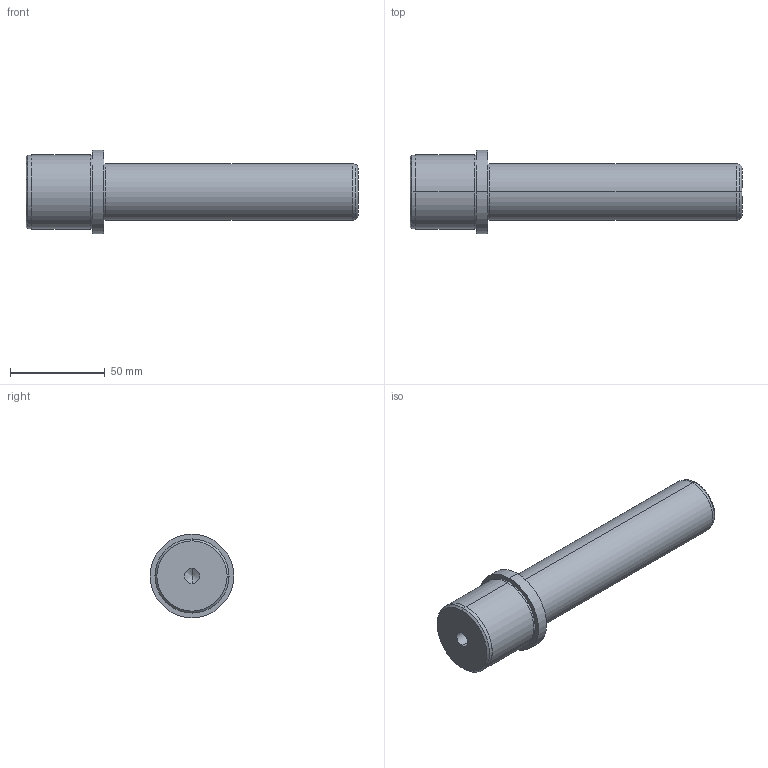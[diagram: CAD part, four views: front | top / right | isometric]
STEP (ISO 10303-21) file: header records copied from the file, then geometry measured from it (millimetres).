
FILE_DESCRIPTION( ( 'STEP AP203' ), '1' );
FILE_NAME( 'D:/Delta 3 D/D05/D05 - 30x140x35.step', '2002-12-31T22:40:39', ( ' ' ), ( ' ' ), 'XStep 1.0', ' ', ' ' );
FILE_SCHEMA( ( 'CONFIG_CONTROL_DESIGN' ) );
Length unit declared in the file: metre
Products named in the file (1): 1
Bounding box: 175 x 44 x 44 mm (x, y, z)
Volume: 144920.2 mm3; surface area: 20967.6 mm2
Topology: 1 solids, 1 shells, 29 faces, 58 edges, 35 vertices
Faces by surface type: revolution 20, bspline 9
Entity records: 855 total; most frequent: CARTESIAN_POINT 218, ORIENTED_EDGE 112, DIRECTION 110, EDGE_CURVE 56, AXIS2_PLACEMENT_3D 35, EDGE_LOOP 35, VERTEX_POINT 35, CIRCLE 34
